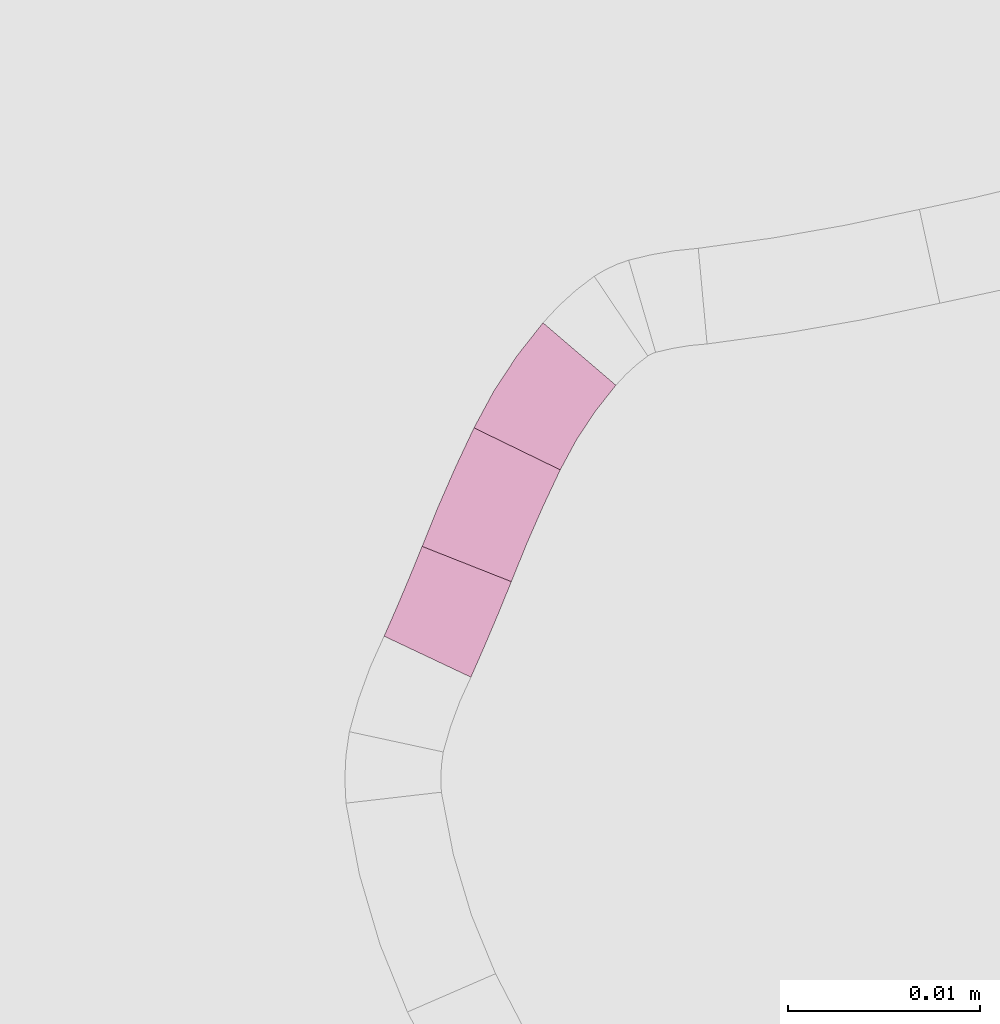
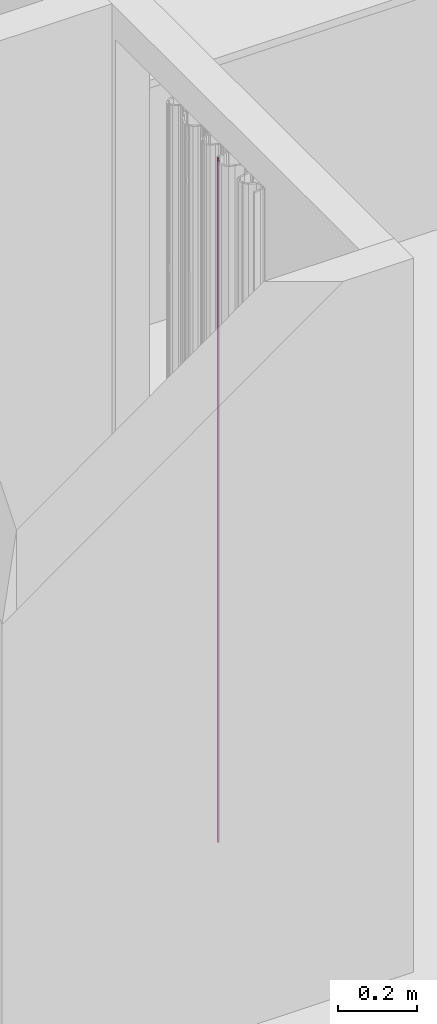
# One storey, part 302 of 418: 3 furnishings.
"""IFC2X3 building model written with IfcOpenShell, lengths in millimetres."""

from ifc_helpers import new_model, entity, si_unit, converted_unit, derived_unit, money_unit, point, direction, frame, frame_2d, origin_with_axes, place, context, subcontext, project, spatial, polyline, circle_curve, parameter, trimmed, segment, composite_curve, outline, extrude, material, type_object, element, save


model = new_model("IFC2X3")

# Units and contexts
model_context = context("Model", 3, precision=0.01, world=origin_with_axes(), true_north=direction((0.0, 1.0)))
body_context = subcontext(model_context, "Body", "Model", "MODEL_VIEW")
ifc_project = project(units=[si_unit("LENGTHUNIT", "METRE", prefix="MILLI"), si_unit("AREAUNIT", "SQUARE_METRE"), si_unit("VOLUMEUNIT", "CUBIC_METRE"), converted_unit("PLANEANGLEUNIT", "DEGREE", entity("IfcPlaneAngleMeasure", 0.0174532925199), si_unit("PLANEANGLEUNIT", "RADIAN"), dimensions=[0, 0, 0, 0, 0, 0, 0]), si_unit("SOLIDANGLEUNIT", "STERADIAN"), money_unit("EUR"), converted_unit("TIMEUNIT", "Year", entity("IfcTimeMeasure", 31556926.0), si_unit("TIMEUNIT", "SECOND"), dimensions=[0, 0, 1, 0, 0, 0, 0]), si_unit("MASSUNIT", "GRAM", prefix="KILO"), si_unit("THERMODYNAMICTEMPERATUREUNIT", "DEGREE_CELSIUS"), si_unit("LUMINOUSINTENSITYUNIT", "LUMEN"), si_unit("ENERGYUNIT", "JOULE", prefix="MEGA"), derived_unit("THERMALCONDUCTANCEUNIT", [(si_unit("POWERUNIT", "WATT"), 1), (si_unit("LENGTHUNIT", "METRE"), -1), (si_unit("THERMODYNAMICTEMPERATUREUNIT", "KELVIN"), -1)]), derived_unit("SPECIFICHEATCAPACITYUNIT", [(si_unit("ENERGYUNIT", "JOULE"), 1), (si_unit("MASSUNIT", "GRAM", prefix="KILO"), -1), (si_unit("THERMODYNAMICTEMPERATUREUNIT", "KELVIN"), -1)]), derived_unit("MASSDENSITYUNIT", [(si_unit("MASSUNIT", "GRAM", prefix="KILO"), 1), (si_unit("VOLUMEUNIT", "CUBIC_METRE"), -1)])], contexts=[model_context])

# Site, building, storey
site_placement = place(None, origin_with_axes())
site = spatial("IfcSite", under=ifc_project, at=site_placement, Name="Paldiski mnt 245/1, Tallinn, Harjumaa", CompositionType="COMPLEX")
building_placement = place(site_placement, origin_with_axes())
building = spatial("IfcBuilding", under=site, at=building_placement, Name="RKAS Hoone üldnimetus (kasutust iseloomustav) -> IFC Project Manager -> SOLIBRI", CompositionType="ELEMENT")
storey_placement = place(building_placement, origin_with_axes())
storey = spatial("IfcBuildingStorey", under=building, at=storey_placement, Name="Esimene korrus", CompositionType="ELEMENT", Elevation=0.0)

# Furnishings
ifc_material = material(Name="KON-00_GENEERILINE - KONSTRUKTSIOON")
furniture_type = type_object("IfcFurnitureType", Name="KON-00_GENEERILINE - KONSTRUKTSIOON 5", AssemblyPlace="NOTDEFINED")
furnishing_1_placement = place(storey_placement, frame((-44067.1937236, -2169.83591223, 0.0), z_axis=(0.0, 0.0, 1.0), x_axis=(0.406846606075, 0.913496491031, 0.0)))
element("IfcFurnishingElement", 1, at=furnishing_1_placement, inside=storey, type_object=furniture_type, material=ifc_material, Name="SS-36", context=body_context, shape_type="SweptSolid", body=[
    extrude(outline(composite_curve([segment(trimmed(circle_curve(frame_2d((0.0, 134.487881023), x_axis=(-0.000800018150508, -0.999999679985)), 139.487881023), [point((-0.111592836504, -4.99995536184)), parameter(0.0)], [point((5.29267622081, -4.89955216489)), parameter(2.22036939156)], True, "CARTESIAN"), True, "CONTINUOUS"), segment(polyline([(5.29267622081, -4.89955216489), (5.07833860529, 0.0959146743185)]), True, "CONTINUOUS"), segment(trimmed(circle_curve(frame_2d((-1.41838363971e-10, 134.487881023), x_axis=(0.0, -1.0)), 134.487881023), [point((5.07833860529, 0.0959146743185)), parameter(2.16403558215)], [point((0.0, 0.0)), parameter(0.0)], False, "CARTESIAN"), True, "CONTINUOUS"), segment(polyline([(0.0, 0.0), (-0.111592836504, -4.99995536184)]), True, "CONTINUOUS")], self_intersect=False)), origin_with_axes(), (0.0, 0.0, 1.0), 2100.0),
])
furnishing_2_placement = place(storey_placement, frame((-44062.5145595, -2158.98444033, 0.0), z_axis=(0.0, 0.0, 1.0), x_axis=(-0.438126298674, -0.898913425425, 0.0)))
element("IfcFurnishingElement", 2, at=furnishing_2_placement, inside=storey, type_object=furniture_type, material=ifc_material, Name="SS-35", context=body_context, shape_type="SweptSolid", body=[
    extrude(outline(composite_curve([segment(trimmed(circle_curve(frame_2d((0.0, 81.9410860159), x_axis=(0.0, -1.0)), 81.9410860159), [point((5.01643171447e-09, 0.0)), parameter(0.0)], [point((6.73259407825, 0.277056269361)), parameter(4.71295407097)], True, "CARTESIAN"), True, "CONTINUOUS"), segment(polyline([(6.73259407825, 0.277056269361), (6.3460057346, 5.26215195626)]), True, "CONTINUOUS"), segment(trimmed(circle_curve(frame_2d((0.0, 81.9410860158), x_axis=(-5.27694148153e-05, -0.999999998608)), 76.9410860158), [point((6.3460057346, 5.26215195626)), parameter(4.73408299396)], [point((-0.00406013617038, 5.00000010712)), parameter(0.0)], False, "CARTESIAN"), True, "CONTINUOUS"), segment(polyline([(-0.00406013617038, 5.00000010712), (5.01643171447e-09, 0.0)]), True, "CONTINUOUS")], self_intersect=False)), origin_with_axes(), (0.0, 0.0, 1.0), 2100.0),
])
furnishing_3_placement = place(storey_placement, frame((-44058.9179134, -2153.51184402, 0.0), z_axis=(0.0, 0.0, 1.0), x_axis=(-0.652519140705, -0.757772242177, 0.0)))
element("IfcFurnishingElement", 3, at=furnishing_3_placement, inside=storey, type_object=furniture_type, material=ifc_material, Name="SS-34", context=body_context, shape_type="SweptSolid", body=[
    extrude(outline(composite_curve([segment(trimmed(circle_curve(frame_2d((0.0, 25.3597780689), x_axis=(0.0, -1.0)), 25.3597780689), [point((1.55608859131e-09, 0.0)), parameter(0.0)], [point((6.49386200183, 0.845535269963)), parameter(14.8369586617)], True, "CARTESIAN"), True, "CONTINUOUS"), segment(polyline([(6.49386200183, 0.845535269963), (5.2171442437, 5.67978902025)]), True, "CONTINUOUS"), segment(trimmed(circle_curve(frame_2d((0.0, 25.3597780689), x_axis=(-0.000554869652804, -0.99999984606)), 20.3597780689), [point((5.2171442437, 5.67978902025)), parameter(14.8793155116)], [point((-0.0112970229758, 5.00000313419)), parameter(0.0)], False, "CARTESIAN"), True, "CONTINUOUS"), segment(polyline([(-0.0112970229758, 5.00000313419), (1.55608859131e-09, 0.0)]), True, "CONTINUOUS")], self_intersect=False)), origin_with_axes(), (0.0, 0.0, 1.0), 2100.0),
])

save(model, "model.ifc")
